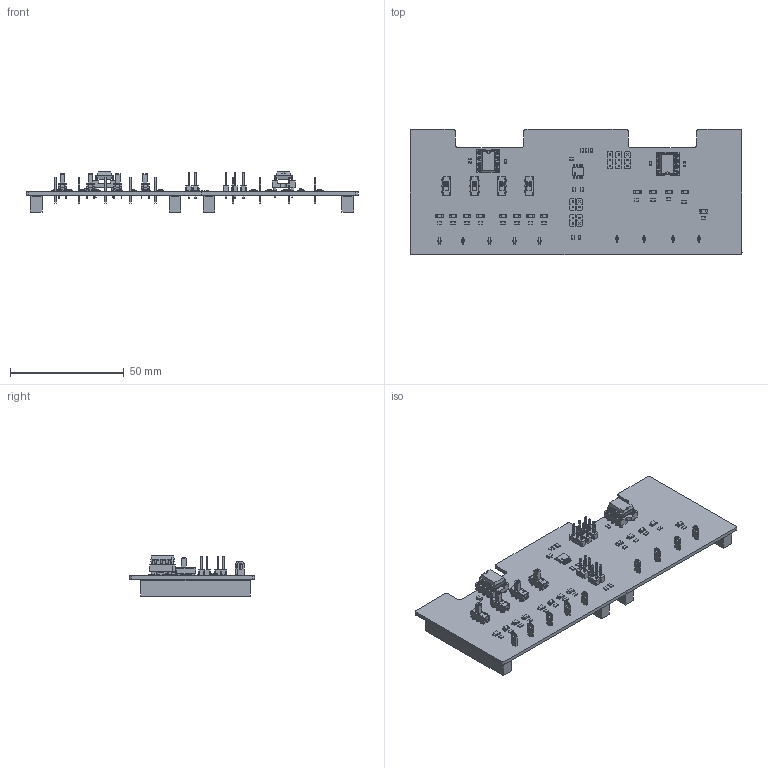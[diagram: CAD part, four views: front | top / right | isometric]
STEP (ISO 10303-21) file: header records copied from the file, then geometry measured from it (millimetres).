
FILE_DESCRIPTION(('KiCad electronic assembly'),'2;1');
FILE_NAME('TVZ_KTM_ApplicationBoard.step','2023-01-25T13:03:00',( 'Pcbnew'),('Kicad'),'Open CASCADE STEP processor 7.6', 'KiCad to STEP converter','Unknown');
FILE_SCHEMA(('AUTOMOTIVE_DESIGN { 1 0 10303 214 1 1 1 1 }'));
Length unit declared in the file: millimetre
Products named in the file (24): TVZ_KTM_ApplicationBoard 1; R_0805_2012Metric; SOLID; KEYS4952; PinHeader_1x02_P2.54mm_Vertical; DIP-8_W7.62mm; AR08-HZL-TT; SOIC-8; LED_1206_3216Metric; C_0805_2012Metric; EG1271A; COMPOUND; PinHeader_1x03_P2.54mm_Vertical; PinSocket_2x19_P2.54mm_Vertical_SMD; TVZ_KTM_ApplicationBoard PCB
Assembly tree (79 placements, depth 3):
  TVZ_KTM_ApplicationBoard 1
    R_0805_2012Metric  x22
      SOLID
    KEYS4952  x9
      SOLID
    PinHeader_1x02_P2.54mm_Vertical  x4
      SOLID
    DIP-8_W7.62mm  x2
      SOLID
    AR08-HZL-TT  x2
      SOLID
    SOIC-8
      SOLID
    LED_1206_3216Metric  x13
      SOLID
    C_0805_2012Metric  x3
      SOLID
    EG1271A  x4
      COMPOUND
    PinHeader_1x03_P2.54mm_Vertical  x3
      SOLID
    PinSocket_2x19_P2.54mm_Vertical_SMD  x4
      SOLID
    TVZ_KTM_ApplicationBoard PCB
Bounding box: 146 x 55 x 17.68 mm (x, y, z)
Volume: 20160 mm3; surface area: 28768.4 mm2
Topology: 100 solids, 100 shells, 8711 faces, 22133 edges, 14166 vertices
Faces by surface type: plane 7557, cylinder 1050, cone 48, bspline 40, sphere 16
Full cylindrical faces by diameter (mm): 0.51 x16, 0.8 x41, 0.92 x16, 1 x17, 1.1 x16, 1.37 x16, 1.5 x9, 1.83 x16
Entity records: 158521 total; most frequent: CARTESIAN_POINT 27436, DIRECTION 21929, LINE 15772, VECTOR 15772, ORIENTED_EDGE 11480, PCURVE 11480, DEFINITIONAL_REPRESENTATION 11480, EDGE_CURVE 5740
